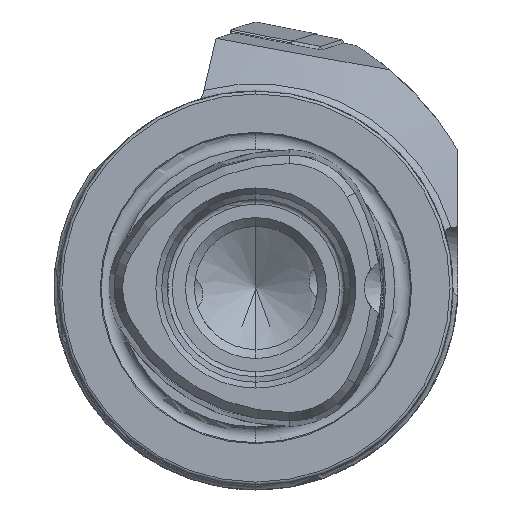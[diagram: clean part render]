
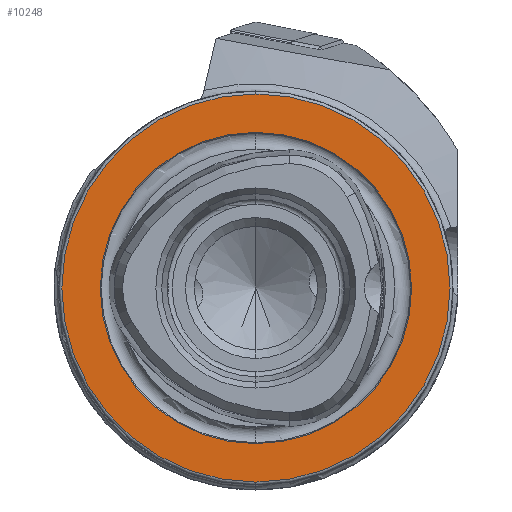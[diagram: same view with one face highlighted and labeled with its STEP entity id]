
A CAD part, left-side view. The second image highlights one B-rep face of the part: STEP entity #10248.
In plain terms, the highlighted planar face has unit normal (-1, 0, 0).
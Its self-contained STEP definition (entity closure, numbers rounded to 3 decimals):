
#4 = AXIS2_PLACEMENT_3D ( 'NONE', #12477, #10033, #2946 ) ;
#908 = DIRECTION ( 'NONE',  ( 0., 0., 1. ) ) ;
#1018 = VERTEX_POINT ( 'NONE', #2773 ) ;
#1741 = EDGE_CURVE ( 'NONE', #3191, #1018, #11389, .T. ) ;
#2059 = DIRECTION ( 'NONE',  ( -1., 0., 0. ) ) ;
#2192 = ORIENTED_EDGE ( 'NONE', *, *, #7078, .F. ) ;
#2332 = DIRECTION ( 'NONE',  ( 0., 0., 1. ) ) ;
#2773 = CARTESIAN_POINT ( 'NONE',  ( 0., 0., 19.7 ) ) ;
#2946 = DIRECTION ( 'NONE',  ( 0., 0., 1. ) ) ;
#3191 = VERTEX_POINT ( 'NONE', #13782 ) ;
#3285 = EDGE_CURVE ( 'NONE', #1018, #3191, #9705, .T. ) ;
#4636 = AXIS2_PLACEMENT_3D ( 'NONE', #12647, #14964, #908 ) ;
#4701 = DIRECTION ( 'NONE',  ( 0., 0., -1. ) ) ;
#4948 = CARTESIAN_POINT ( 'NONE',  ( 0., 0., 15.8 ) ) ;
#5494 = CARTESIAN_POINT ( 'NONE',  ( 0., 0., 0. ) ) ;
#5791 = DIRECTION ( 'NONE',  ( 1., 0., 0. ) ) ;
#6192 = AXIS2_PLACEMENT_3D ( 'NONE', #15097, #5791, #4701 ) ;
#7078 = EDGE_CURVE ( 'NONE', #9282, #7970, #8612, .T. ) ;
#7970 = VERTEX_POINT ( 'NONE', #4948 ) ;
#8274 = PLANE ( 'NONE',  #6192 ) ;
#8301 = AXIS2_PLACEMENT_3D ( 'NONE', #5494, #2059, #11590 ) ;
#8460 = ORIENTED_EDGE ( 'NONE', *, *, #3285, .T. ) ;
#8612 = CIRCLE ( 'NONE', #8301, 15.8 ) ;
#9282 = VERTEX_POINT ( 'NONE', #13281 ) ;
#9453 = CIRCLE ( 'NONE', #4636, 15.8 ) ;
#9613 = EDGE_CURVE ( 'NONE', #7970, #9282, #9453, .T. ) ;
#9616 = FACE_BOUND ( 'NONE', #9681, .T. ) ;
#9681 = EDGE_LOOP ( 'NONE', ( #13514, #2192 ) ) ;
#9705 = CIRCLE ( 'NONE', #14864, 19.7 ) ;
#10033 = DIRECTION ( 'NONE',  ( -1., 0., 0. ) ) ;
#10248 = ADVANCED_FACE ( 'NONE', ( #9616, #10342 ), #8274, .F. ) ;
#10342 = FACE_OUTER_BOUND ( 'NONE', #14617, .T. ) ;
#11389 = CIRCLE ( 'NONE', #4, 19.7 ) ;
#11590 = DIRECTION ( 'NONE',  ( 0., 0., 1. ) ) ;
#11911 = ORIENTED_EDGE ( 'NONE', *, *, #1741, .T. ) ;
#12477 = CARTESIAN_POINT ( 'NONE',  ( 0., 0., 0. ) ) ;
#12647 = CARTESIAN_POINT ( 'NONE',  ( 0., 0., 0. ) ) ;
#12999 = CARTESIAN_POINT ( 'NONE',  ( 0., 0., 0. ) ) ;
#13281 = CARTESIAN_POINT ( 'NONE',  ( 0., 0., -15.8 ) ) ;
#13514 = ORIENTED_EDGE ( 'NONE', *, *, #9613, .F. ) ;
#13782 = CARTESIAN_POINT ( 'NONE',  ( 0., 0., -19.7 ) ) ;
#13919 = DIRECTION ( 'NONE',  ( -1., 0., 0. ) ) ;
#14617 = EDGE_LOOP ( 'NONE', ( #8460, #11911 ) ) ;
#14864 = AXIS2_PLACEMENT_3D ( 'NONE', #12999, #13919, #2332 ) ;
#14964 = DIRECTION ( 'NONE',  ( -1., 0., 0. ) ) ;
#15097 = CARTESIAN_POINT ( 'NONE',  ( 0., 15.8, 0. ) ) ;
